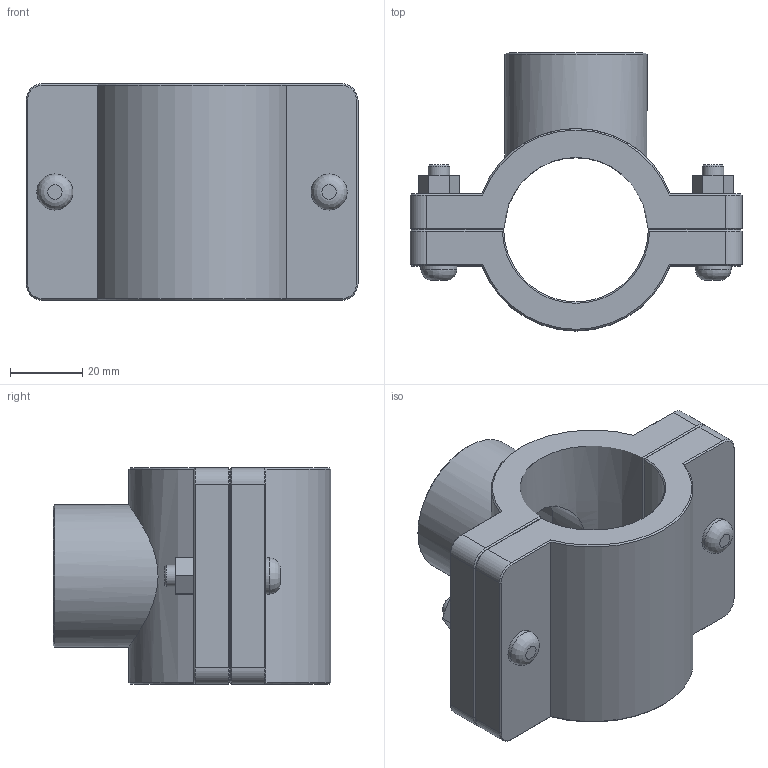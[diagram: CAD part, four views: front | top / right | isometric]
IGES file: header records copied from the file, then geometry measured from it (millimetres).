
Global section: file name: 160760040010_160860040010.ipt; native system: Autodesk Inventor 2015; preprocessor: unknown; author: KIM; date: 20170618.093450; units: millimetre
Bounding box: 92 x 77 x 60 mm (x, y, z)
Volume: 126069.8 mm3; surface area: 37367.2 mm2
Topology: 1 solids, 1 shells, 113 faces, 262 edges, 161 vertices
Faces by surface type: plane 64, cone 23, cylinder 17, revolution 9
Full cylindrical faces by diameter (mm): 6 x2, 10 x4, 39.378 x1
